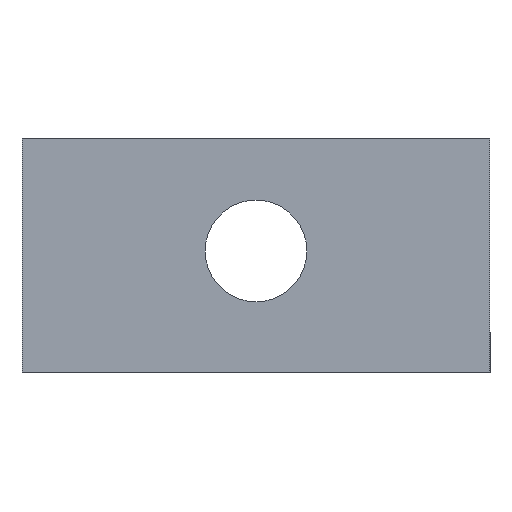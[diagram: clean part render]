
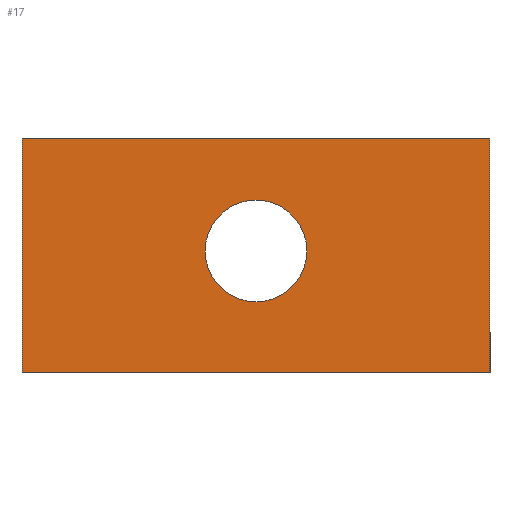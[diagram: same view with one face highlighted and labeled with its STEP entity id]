
A CAD part, left-side view. The second image highlights one B-rep face of the part: STEP entity #17.
In plain terms, the highlighted planar face has unit normal (-1, 0, 0).
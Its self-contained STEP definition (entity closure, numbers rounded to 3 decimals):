
#17 = ADVANCED_FACE('',(#18,#137),#32,.F.);
#18 = FACE_BOUND('',#19,.F.);
#19 = EDGE_LOOP('',(#20,#55,#83,#111));
#20 = ORIENTED_EDGE('',*,*,#21,.F.);
#21 = EDGE_CURVE('',#22,#24,#26,.T.);
#22 = VERTEX_POINT('',#23);
#23 = CARTESIAN_POINT('',(-2.5,-23.,0.));
#24 = VERTEX_POINT('',#25);
#25 = CARTESIAN_POINT('',(-2.5,-23.,23.));
#26 = SURFACE_CURVE('',#27,(#31,#43),.PCURVE_S1.);
#27 = LINE('',#28,#29);
#28 = CARTESIAN_POINT('',(-2.5,-23.,0.));
#29 = VECTOR('',#30,1.);
#30 = DIRECTION('',(0.,0.,1.));
#31 = PCURVE('',#32,#37);
#32 = PLANE('',#33);
#33 = AXIS2_PLACEMENT_3D('',#34,#35,#36);
#34 = CARTESIAN_POINT('',(-2.5,-23.,0.));
#35 = DIRECTION('',(1.,0.,0.));
#36 = DIRECTION('',(0.,0.,1.));
#37 = DEFINITIONAL_REPRESENTATION('',(#38),#42);
#38 = LINE('',#39,#40);
#39 = CARTESIAN_POINT('',(0.,0.));
#40 = VECTOR('',#41,1.);
#41 = DIRECTION('',(1.,0.));
#42 = ( GEOMETRIC_REPRESENTATION_CONTEXT(2) 
PARAMETRIC_REPRESENTATION_CONTEXT() REPRESENTATION_CONTEXT('2D SPACE',''
  ) );
#43 = PCURVE('',#44,#49);
#44 = PLANE('',#45);
#45 = AXIS2_PLACEMENT_3D('',#46,#47,#48);
#46 = CARTESIAN_POINT('',(-2.5,-23.,0.));
#47 = DIRECTION('',(0.,1.,0.));
#48 = DIRECTION('',(0.,0.,1.));
#49 = DEFINITIONAL_REPRESENTATION('',(#50),#54);
#50 = LINE('',#51,#52);
#51 = CARTESIAN_POINT('',(0.,0.));
#52 = VECTOR('',#53,1.);
#53 = DIRECTION('',(1.,0.));
#54 = ( GEOMETRIC_REPRESENTATION_CONTEXT(2) 
PARAMETRIC_REPRESENTATION_CONTEXT() REPRESENTATION_CONTEXT('2D SPACE',''
  ) );
#55 = ORIENTED_EDGE('',*,*,#56,.T.);
#56 = EDGE_CURVE('',#22,#57,#59,.T.);
#57 = VERTEX_POINT('',#58);
#58 = CARTESIAN_POINT('',(-2.5,23.,0.));
#59 = SURFACE_CURVE('',#60,(#64,#71),.PCURVE_S1.);
#60 = LINE('',#61,#62);
#61 = CARTESIAN_POINT('',(-2.5,-23.,0.));
#62 = VECTOR('',#63,1.);
#63 = DIRECTION('',(0.,1.,0.));
#64 = PCURVE('',#32,#65);
#65 = DEFINITIONAL_REPRESENTATION('',(#66),#70);
#66 = LINE('',#67,#68);
#67 = CARTESIAN_POINT('',(0.,0.));
#68 = VECTOR('',#69,1.);
#69 = DIRECTION('',(0.,-1.));
#70 = ( GEOMETRIC_REPRESENTATION_CONTEXT(2) 
PARAMETRIC_REPRESENTATION_CONTEXT() REPRESENTATION_CONTEXT('2D SPACE',''
  ) );
#71 = PCURVE('',#72,#77);
#72 = PLANE('',#73);
#73 = AXIS2_PLACEMENT_3D('',#74,#75,#76);
#74 = CARTESIAN_POINT('',(-2.5,-23.,0.));
#75 = DIRECTION('',(0.,0.,1.));
#76 = DIRECTION('',(1.,0.,0.));
#77 = DEFINITIONAL_REPRESENTATION('',(#78),#82);
#78 = LINE('',#79,#80);
#79 = CARTESIAN_POINT('',(0.,0.));
#80 = VECTOR('',#81,1.);
#81 = DIRECTION('',(0.,1.));
#82 = ( GEOMETRIC_REPRESENTATION_CONTEXT(2) 
PARAMETRIC_REPRESENTATION_CONTEXT() REPRESENTATION_CONTEXT('2D SPACE',''
  ) );
#83 = ORIENTED_EDGE('',*,*,#84,.T.);
#84 = EDGE_CURVE('',#57,#85,#87,.T.);
#85 = VERTEX_POINT('',#86);
#86 = CARTESIAN_POINT('',(-2.5,23.,23.));
#87 = SURFACE_CURVE('',#88,(#92,#99),.PCURVE_S1.);
#88 = LINE('',#89,#90);
#89 = CARTESIAN_POINT('',(-2.5,23.,0.));
#90 = VECTOR('',#91,1.);
#91 = DIRECTION('',(0.,0.,1.));
#92 = PCURVE('',#32,#93);
#93 = DEFINITIONAL_REPRESENTATION('',(#94),#98);
#94 = LINE('',#95,#96);
#95 = CARTESIAN_POINT('',(0.,-46.));
#96 = VECTOR('',#97,1.);
#97 = DIRECTION('',(1.,0.));
#98 = ( GEOMETRIC_REPRESENTATION_CONTEXT(2) 
PARAMETRIC_REPRESENTATION_CONTEXT() REPRESENTATION_CONTEXT('2D SPACE',''
  ) );
#99 = PCURVE('',#100,#105);
#100 = PLANE('',#101);
#101 = AXIS2_PLACEMENT_3D('',#102,#103,#104);
#102 = CARTESIAN_POINT('',(-2.5,23.,0.));
#103 = DIRECTION('',(0.,1.,0.));
#104 = DIRECTION('',(0.,0.,1.));
#105 = DEFINITIONAL_REPRESENTATION('',(#106),#110);
#106 = LINE('',#107,#108);
#107 = CARTESIAN_POINT('',(0.,0.));
#108 = VECTOR('',#109,1.);
#109 = DIRECTION('',(1.,0.));
#110 = ( GEOMETRIC_REPRESENTATION_CONTEXT(2) 
PARAMETRIC_REPRESENTATION_CONTEXT() REPRESENTATION_CONTEXT('2D SPACE',''
  ) );
#111 = ORIENTED_EDGE('',*,*,#112,.F.);
#112 = EDGE_CURVE('',#24,#85,#113,.T.);
#113 = SURFACE_CURVE('',#114,(#118,#125),.PCURVE_S1.);
#114 = LINE('',#115,#116);
#115 = CARTESIAN_POINT('',(-2.5,-23.,23.));
#116 = VECTOR('',#117,1.);
#117 = DIRECTION('',(0.,1.,0.));
#118 = PCURVE('',#32,#119);
#119 = DEFINITIONAL_REPRESENTATION('',(#120),#124);
#120 = LINE('',#121,#122);
#121 = CARTESIAN_POINT('',(23.,0.));
#122 = VECTOR('',#123,1.);
#123 = DIRECTION('',(0.,-1.));
#124 = ( GEOMETRIC_REPRESENTATION_CONTEXT(2) 
PARAMETRIC_REPRESENTATION_CONTEXT() REPRESENTATION_CONTEXT('2D SPACE',''
  ) );
#125 = PCURVE('',#126,#131);
#126 = PLANE('',#127);
#127 = AXIS2_PLACEMENT_3D('',#128,#129,#130);
#128 = CARTESIAN_POINT('',(-2.5,-23.,23.));
#129 = DIRECTION('',(0.,0.,1.));
#130 = DIRECTION('',(1.,0.,0.));
#131 = DEFINITIONAL_REPRESENTATION('',(#132),#136);
#132 = LINE('',#133,#134);
#133 = CARTESIAN_POINT('',(0.,0.));
#134 = VECTOR('',#135,1.);
#135 = DIRECTION('',(0.,1.));
#136 = ( GEOMETRIC_REPRESENTATION_CONTEXT(2) 
PARAMETRIC_REPRESENTATION_CONTEXT() REPRESENTATION_CONTEXT('2D SPACE',''
  ) );
#137 = FACE_BOUND('',#138,.F.);
#138 = EDGE_LOOP('',(#139));
#139 = ORIENTED_EDGE('',*,*,#140,.T.);
#140 = EDGE_CURVE('',#141,#141,#143,.T.);
#141 = VERTEX_POINT('',#142);
#142 = CARTESIAN_POINT('',(-2.5,5.,12.));
#143 = SURFACE_CURVE('',#144,(#149,#160),.PCURVE_S1.);
#144 = CIRCLE('',#145,5.);
#145 = AXIS2_PLACEMENT_3D('',#146,#147,#148);
#146 = CARTESIAN_POINT('',(-2.5,0.,12.));
#147 = DIRECTION('',(-1.,0.,0.));
#148 = DIRECTION('',(0.,1.,0.));
#149 = PCURVE('',#32,#150);
#150 = DEFINITIONAL_REPRESENTATION('',(#151),#159);
#151 = ( BOUNDED_CURVE() B_SPLINE_CURVE(2,(#152,#153,#154,#155,#156,#157
,#158),.UNSPECIFIED.,.T.,.F.) B_SPLINE_CURVE_WITH_KNOTS((1,2,2,2,2,1),(
    -2.094,0.,2.094,4.189,6.283,
8.378),.UNSPECIFIED.) CURVE() GEOMETRIC_REPRESENTATION_ITEM() 
RATIONAL_B_SPLINE_CURVE((1.,0.5,1.,0.5,1.,0.5,1.)) REPRESENTATION_ITEM(
  '') );
#152 = CARTESIAN_POINT('',(12.,-28.));
#153 = CARTESIAN_POINT('',(3.34,-28.));
#154 = CARTESIAN_POINT('',(7.67,-20.5));
#155 = CARTESIAN_POINT('',(12.,-13.));
#156 = CARTESIAN_POINT('',(16.33,-20.5));
#157 = CARTESIAN_POINT('',(20.66,-28.));
#158 = CARTESIAN_POINT('',(12.,-28.));
#159 = ( GEOMETRIC_REPRESENTATION_CONTEXT(2) 
PARAMETRIC_REPRESENTATION_CONTEXT() REPRESENTATION_CONTEXT('2D SPACE',''
  ) );
#160 = PCURVE('',#161,#166);
#161 = CYLINDRICAL_SURFACE('',#162,5.);
#162 = AXIS2_PLACEMENT_3D('',#163,#164,#165);
#163 = CARTESIAN_POINT('',(-2.6,0.,12.));
#164 = DIRECTION('',(-1.,-0.,-0.));
#165 = DIRECTION('',(0.,1.,0.));
#166 = DEFINITIONAL_REPRESENTATION('',(#167),#171);
#167 = LINE('',#168,#169);
#168 = CARTESIAN_POINT('',(-6.283,-0.1));
#169 = VECTOR('',#170,1.);
#170 = DIRECTION('',(1.,-0.));
#171 = ( GEOMETRIC_REPRESENTATION_CONTEXT(2) 
PARAMETRIC_REPRESENTATION_CONTEXT() REPRESENTATION_CONTEXT('2D SPACE',''
  ) );
